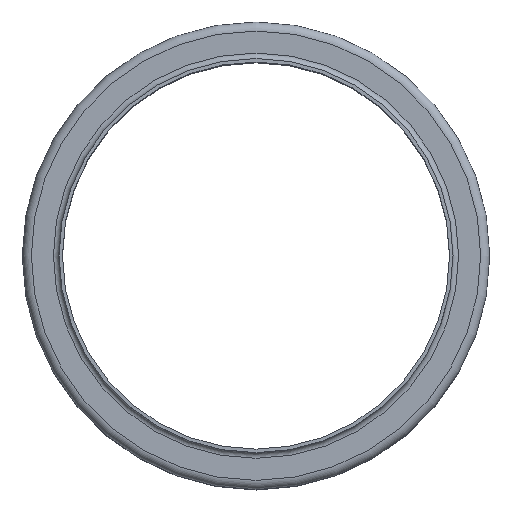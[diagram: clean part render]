
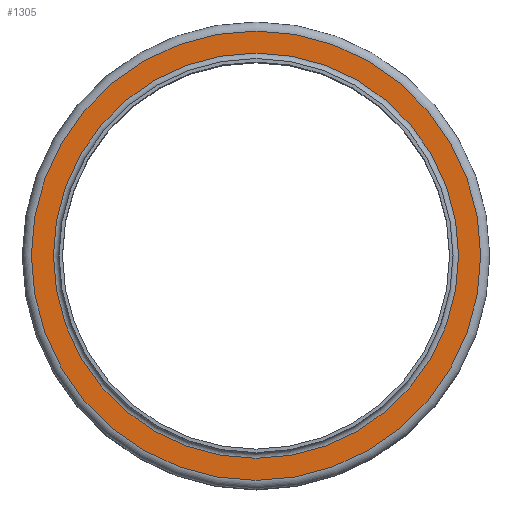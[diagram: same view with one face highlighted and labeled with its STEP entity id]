
A CAD part, top view. The second image highlights one B-rep face of the part: STEP entity #1305.
In plain terms, the highlighted planar face has unit normal (0, 0, 1).
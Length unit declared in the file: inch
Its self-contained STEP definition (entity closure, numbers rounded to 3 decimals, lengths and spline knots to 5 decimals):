
#130=FACE_BOUND('',#384,.T.);
#229=FACE_OUTER_BOUND('',#383,.T.);
#383=EDGE_LOOP('',(#1108));
#384=EDGE_LOOP('',(#1109));
#545=CIRCLE('',#1574,3.4675);
#546=CIRCLE('',#1576,3.845);
#658=VERTEX_POINT('',#2470);
#659=VERTEX_POINT('',#2474);
#811=EDGE_CURVE('',#658,#658,#545,.T.);
#812=EDGE_CURVE('',#659,#659,#546,.T.);
#1108=ORIENTED_EDGE('',*,*,#812,.F.);
#1109=ORIENTED_EDGE('',*,*,#811,.T.);
#1206=PLANE('',#1575);
#1305=ADVANCED_FACE('',(#229,#130),#1206,.T.);
#1574=AXIS2_PLACEMENT_3D('',#2472,#2070,#2071);
#1575=AXIS2_PLACEMENT_3D('',#2473,#2072,#2073);
#1576=AXIS2_PLACEMENT_3D('',#2475,#2074,#2075);
#2070=DIRECTION('center_axis',(0.,0.,-1.));
#2071=DIRECTION('ref_axis',(1.,0.,0.));
#2072=DIRECTION('center_axis',(0.,0.,1.));
#2073=DIRECTION('ref_axis',(1.,0.,0.));
#2074=DIRECTION('center_axis',(0.,0.,-1.));
#2075=DIRECTION('ref_axis',(1.,0.,0.));
#2470=CARTESIAN_POINT('',(3.4675,0.,-0.095));
#2472=CARTESIAN_POINT('Origin',(0.,0.,-0.095));
#2473=CARTESIAN_POINT('Origin',(0.,3.845,-0.095));
#2474=CARTESIAN_POINT('',(3.845,0.,-0.095));
#2475=CARTESIAN_POINT('Origin',(0.,0.,-0.095));
